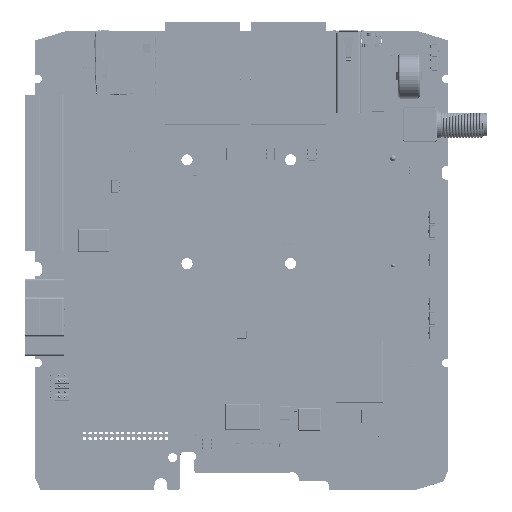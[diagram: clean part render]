
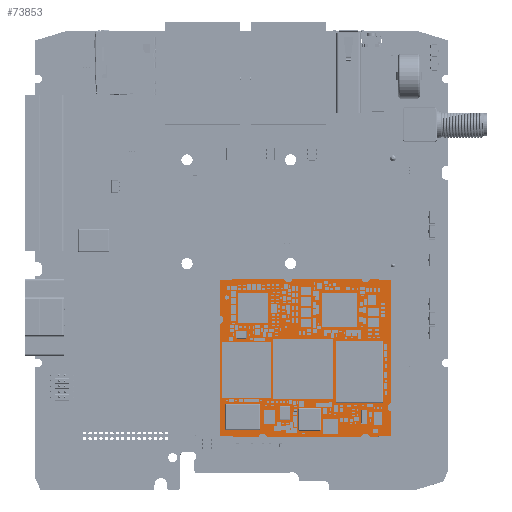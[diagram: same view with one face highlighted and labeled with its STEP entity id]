
A CAD part, top view. The second image highlights one B-rep face of the part: STEP entity #73853.
In plain terms, the highlighted planar face has unit normal (0, 0, 1).
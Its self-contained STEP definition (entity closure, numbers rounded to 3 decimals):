
#73853=ADVANCED_FACE('',(#143023),#143024,.T.);
#143023=FACE_OUTER_BOUND('',#233943,.T.);
#143024=PLANE('',#233944);
#233943=EDGE_LOOP('',(#377398,#377399,#377400,#377401,#377402,#377403,#377404,#377405,#377406,#377407,#377408,#377409,#377410,#377411,#377412,#377413,#377414,#377415,#377416,#377417,#377418,#377419,#377420,#377421));
#233944=AXIS2_PLACEMENT_3D('',#377422,#377423,#377424);
#377398=ORIENTED_EDGE('',*,*,#449373,.T.);
#377399=ORIENTED_EDGE('',*,*,#449381,.T.);
#377400=ORIENTED_EDGE('',*,*,#449378,.T.);
#377401=ORIENTED_EDGE('',*,*,#449382,.T.);
#377402=ORIENTED_EDGE('',*,*,#449383,.T.);
#377403=ORIENTED_EDGE('',*,*,#449384,.T.);
#377404=ORIENTED_EDGE('',*,*,#449385,.T.);
#377405=ORIENTED_EDGE('',*,*,#449386,.T.);
#377406=ORIENTED_EDGE('',*,*,#449387,.T.);
#377407=ORIENTED_EDGE('',*,*,#449388,.T.);
#377408=ORIENTED_EDGE('',*,*,#449389,.T.);
#377409=ORIENTED_EDGE('',*,*,#449390,.T.);
#377410=ORIENTED_EDGE('',*,*,#449391,.T.);
#377411=ORIENTED_EDGE('',*,*,#449392,.T.);
#377412=ORIENTED_EDGE('',*,*,#449393,.T.);
#377413=ORIENTED_EDGE('',*,*,#449394,.T.);
#377414=ORIENTED_EDGE('',*,*,#449395,.T.);
#377415=ORIENTED_EDGE('',*,*,#449396,.T.);
#377416=ORIENTED_EDGE('',*,*,#449397,.T.);
#377417=ORIENTED_EDGE('',*,*,#449368,.T.);
#377418=ORIENTED_EDGE('',*,*,#449398,.T.);
#377419=ORIENTED_EDGE('',*,*,#449399,.T.);
#377420=ORIENTED_EDGE('',*,*,#449400,.T.);
#377421=ORIENTED_EDGE('',*,*,#449401,.T.);
#377422=CARTESIAN_POINT('',(18.213,20.072,1.825));
#377423=DIRECTION('',(0.,0.,1.0));
#377424=DIRECTION('',(1.0,0.,0.0));
#449368=EDGE_CURVE('',#533349,#533347,#533350,.T.);
#449373=EDGE_CURVE('',#533358,#533356,#533359,.T.);
#449378=EDGE_CURVE('',#533367,#533365,#533368,.T.);
#449381=EDGE_CURVE('',#533356,#533367,#533371,.T.);
#449382=EDGE_CURVE('',#533365,#533372,#533373,.T.);
#449383=EDGE_CURVE('',#533372,#533374,#533375,.T.);
#449384=EDGE_CURVE('',#533374,#533376,#533377,.T.);
#449385=EDGE_CURVE('',#533376,#533378,#533379,.T.);
#449386=EDGE_CURVE('',#533378,#533380,#533381,.T.);
#449387=EDGE_CURVE('',#533380,#533382,#533383,.T.);
#449388=EDGE_CURVE('',#533382,#533384,#533385,.T.);
#449389=EDGE_CURVE('',#533384,#533386,#533387,.T.);
#449390=EDGE_CURVE('',#533386,#533388,#533389,.T.);
#449391=EDGE_CURVE('',#533388,#533390,#533391,.T.);
#449392=EDGE_CURVE('',#533390,#533392,#533393,.T.);
#449393=EDGE_CURVE('',#533392,#533394,#533395,.T.);
#449394=EDGE_CURVE('',#533394,#533396,#533397,.T.);
#449395=EDGE_CURVE('',#533396,#533398,#533399,.T.);
#449396=EDGE_CURVE('',#533398,#533400,#533401,.T.);
#449397=EDGE_CURVE('',#533400,#533349,#533402,.T.);
#449398=EDGE_CURVE('',#533347,#533403,#533404,.T.);
#449399=EDGE_CURVE('',#533403,#533405,#533406,.T.);
#449400=EDGE_CURVE('',#533405,#533407,#533408,.T.);
#449401=EDGE_CURVE('',#533407,#533358,#533409,.T.);
#533347=VERTEX_POINT('',#660221);
#533349=VERTEX_POINT('',#660224);
#533350=CIRCLE('',#660225,1.025);
#533356=VERTEX_POINT('',#660232);
#533358=VERTEX_POINT('',#660235);
#533359=CIRCLE('',#660236,1.025);
#533365=VERTEX_POINT('',#660243);
#533367=VERTEX_POINT('',#660246);
#533368=CIRCLE('',#660247,1.025);
#533371=LINE('',#660251,#660252);
#533372=VERTEX_POINT('',#660253);
#533373=LINE('',#660254,#660255);
#533374=VERTEX_POINT('',#660256);
#533375=CIRCLE('',#660257,1.);
#533376=VERTEX_POINT('',#660258);
#533377=LINE('',#660259,#660260);
#533378=VERTEX_POINT('',#660261);
#533379=LINE('',#660262,#660263);
#533380=VERTEX_POINT('',#660264);
#533381=CIRCLE('',#660265,1.025);
#533382=VERTEX_POINT('',#660266);
#533383=LINE('',#660267,#660268);
#533384=VERTEX_POINT('',#660269);
#533385=LINE('',#660270,#660271);
#533386=VERTEX_POINT('',#660272);
#533387=CIRCLE('',#660273,1.0);
#533388=VERTEX_POINT('',#660274);
#533389=LINE('',#660275,#660276);
#533390=VERTEX_POINT('',#660277);
#533391=CIRCLE('',#660278,1.025);
#533392=VERTEX_POINT('',#660279);
#533393=LINE('',#660280,#660281);
#533394=VERTEX_POINT('',#660282);
#533395=CIRCLE('',#660283,1.025);
#533396=VERTEX_POINT('',#660284);
#533397=LINE('',#660285,#660286);
#533398=VERTEX_POINT('',#660287);
#533399=CIRCLE('',#660288,1.);
#533400=VERTEX_POINT('',#660289);
#533401=LINE('',#660290,#660291);
#533402=LINE('',#660292,#660293);
#533403=VERTEX_POINT('',#660294);
#533404=LINE('',#660295,#660296);
#533405=VERTEX_POINT('',#660297);
#533406=LINE('',#660298,#660299);
#533407=VERTEX_POINT('',#660300);
#533408=CIRCLE('',#660301,1.0);
#533409=LINE('',#660302,#660303);
#660221=CARTESIAN_POINT('',(28.695,40.0,1.825));
#660224=CARTESIAN_POINT('',(30.705,40.0,1.825));
#660225=AXIS2_PLACEMENT_3D('',#725500,#725501,#725502);
#660232=CARTESIAN_POINT('',(-0.3,32.995,1.825));
#660235=CARTESIAN_POINT('',(-0.3,35.005,1.825));
#660236=AXIS2_PLACEMENT_3D('',#725508,#725509,#725510);
#660243=CARTESIAN_POINT('',(-0.3,14.995,1.825));
#660246=CARTESIAN_POINT('',(-0.3,17.005,1.825));
#660247=AXIS2_PLACEMENT_3D('',#725516,#725517,#725518);
#660251=CARTESIAN_POINT('',(-0.3,25.0,1.825));
#660252=VECTOR('',#725520,1.0);
#660253=CARTESIAN_POINT('',(-0.3,3.214,1.825));
#660254=CARTESIAN_POINT('',(-0.3,9.104,1.825));
#660255=VECTOR('',#725521,1.0);
#660256=CARTESIAN_POINT('',(0.,2.5,1.825));
#660257=AXIS2_PLACEMENT_3D('',#725522,#725523,#725524);
#660258=CARTESIAN_POINT('',(0.,0.,1.825));
#660259=CARTESIAN_POINT('',(0.,1.25,1.825));
#660260=VECTOR('',#725525,1.0);
#660261=CARTESIAN_POINT('',(8.295,0.,1.825));
#660262=CARTESIAN_POINT('',(4.147,0.,1.825));
#660263=VECTOR('',#725526,1.0);
#660264=CARTESIAN_POINT('',(10.305,0.,1.825));
#660265=AXIS2_PLACEMENT_3D('',#725527,#725528,#725529);
#660266=CARTESIAN_POINT('',(36.4,0.,1.825));
#660267=CARTESIAN_POINT('',(23.353,0.,1.825));
#660268=VECTOR('',#725530,1.0);
#660269=CARTESIAN_POINT('',(36.4,2.5,1.825));
#660270=CARTESIAN_POINT('',(36.4,1.25,1.825));
#660271=VECTOR('',#725531,1.0);
#660272=CARTESIAN_POINT('',(36.7,3.214,1.825));
#660273=AXIS2_PLACEMENT_3D('',#725532,#725533,#725534);
#660274=CARTESIAN_POINT('',(36.7,8.995,1.825));
#660275=CARTESIAN_POINT('',(36.7,6.104,1.825));
#660276=VECTOR('',#725535,1.0);
#660277=CARTESIAN_POINT('',(36.7,11.005,1.825));
#660278=AXIS2_PLACEMENT_3D('',#725536,#725537,#725538);
#660279=CARTESIAN_POINT('',(36.7,32.995,1.825));
#660280=CARTESIAN_POINT('',(36.7,22.0,1.825));
#660281=VECTOR('',#725539,1.0);
#660282=CARTESIAN_POINT('',(36.7,35.005,1.825));
#660283=AXIS2_PLACEMENT_3D('',#725540,#725541,#725542);
#660284=CARTESIAN_POINT('',(36.7,36.786,1.825));
#660285=CARTESIAN_POINT('',(36.7,35.896,1.825));
#660286=VECTOR('',#725543,1.0);
#660287=CARTESIAN_POINT('',(36.4,37.5,1.825));
#660288=AXIS2_PLACEMENT_3D('',#725544,#725545,#725546);
#660289=CARTESIAN_POINT('',(36.4,40.0,1.825));
#660290=CARTESIAN_POINT('',(36.4,38.75,1.825));
#660291=VECTOR('',#725547,1.0);
#660292=CARTESIAN_POINT('',(33.553,40.0,1.825));
#660293=VECTOR('',#725548,1.0);
#660294=CARTESIAN_POINT('',(0.,40.0,1.825));
#660295=CARTESIAN_POINT('',(14.347,40.0,1.825));
#660296=VECTOR('',#725549,1.0);
#660297=CARTESIAN_POINT('',(0.,37.5,1.825));
#660298=CARTESIAN_POINT('',(0.,38.75,1.825));
#660299=VECTOR('',#725550,1.0);
#660300=CARTESIAN_POINT('',(-0.3,36.786,1.825));
#660301=AXIS2_PLACEMENT_3D('',#725551,#725552,#725553);
#660302=CARTESIAN_POINT('',(-0.3,35.896,1.825));
#660303=VECTOR('',#725554,1.0);
#725500=CARTESIAN_POINT('',(29.7,40.2,1.825));
#725501=DIRECTION('',(0.0,0.0,-1.0));
#725502=DIRECTION('',(0.981,-0.195,0.0));
#725508=CARTESIAN_POINT('',(-0.5,34.0,1.825));
#725509=DIRECTION('',(0.0,0.0,-1.0));
#725510=DIRECTION('',(0.195,0.981,0.0));
#725516=CARTESIAN_POINT('',(-0.5,16.0,1.825));
#725517=DIRECTION('',(0.0,0.0,-1.0));
#725518=DIRECTION('',(0.195,0.981,0.0));
#725520=DIRECTION('',(0.,-1.0,0.0));
#725521=DIRECTION('',(0.,-1.0,0.0));
#725522=CARTESIAN_POINT('',(-1.0,2.5,1.825));
#725523=DIRECTION('',(0.0,0.0,-1.0));
#725524=DIRECTION('',(0.7,0.714,0.0));
#725525=DIRECTION('',(0.,-1.,0.0));
#725526=DIRECTION('',(1.0,0.0,0.0));
#725527=CARTESIAN_POINT('',(9.3,-0.2,1.825));
#725528=DIRECTION('',(0.0,0.0,-1.0));
#725529=DIRECTION('',(-0.981,0.195,0.0));
#725530=DIRECTION('',(1.0,0.,0.0));
#725531=DIRECTION('',(0.0,1.0,0.0));
#725532=CARTESIAN_POINT('',(37.4,2.5,1.825));
#725533=DIRECTION('',(0.0,0.0,-1.0));
#725534=DIRECTION('',(-1.0,0.0,0.0));
#725535=DIRECTION('',(0.,1.0,0.0));
#725536=CARTESIAN_POINT('',(36.9,10.0,1.825));
#725537=DIRECTION('',(-0.0,0.0,-1.0));
#725538=DIRECTION('',(-0.195,-0.981,0.0));
#725539=DIRECTION('',(0.0,1.0,0.0));
#725540=CARTESIAN_POINT('',(36.9,34.0,1.825));
#725541=DIRECTION('',(-0.0,0.0,-1.0));
#725542=DIRECTION('',(-0.195,-0.981,0.0));
#725543=DIRECTION('',(0.0,1.0,0.0));
#725544=CARTESIAN_POINT('',(37.4,37.5,1.825));
#725545=DIRECTION('',(-0.0,0.0,-1.0));
#725546=DIRECTION('',(-0.7,-0.714,0.0));
#725547=DIRECTION('',(0.,1.,0.0));
#725548=DIRECTION('',(-1.0,0.0,0.0));
#725549=DIRECTION('',(-1.0,0.0,0.0));
#725550=DIRECTION('',(0.0,-1.0,0.0));
#725551=CARTESIAN_POINT('',(-1.0,37.5,1.825));
#725552=DIRECTION('',(0.0,0.0,-1.0));
#725553=DIRECTION('',(1.0,0.0,0.0));
#725554=DIRECTION('',(0.,-1.,0.0));
